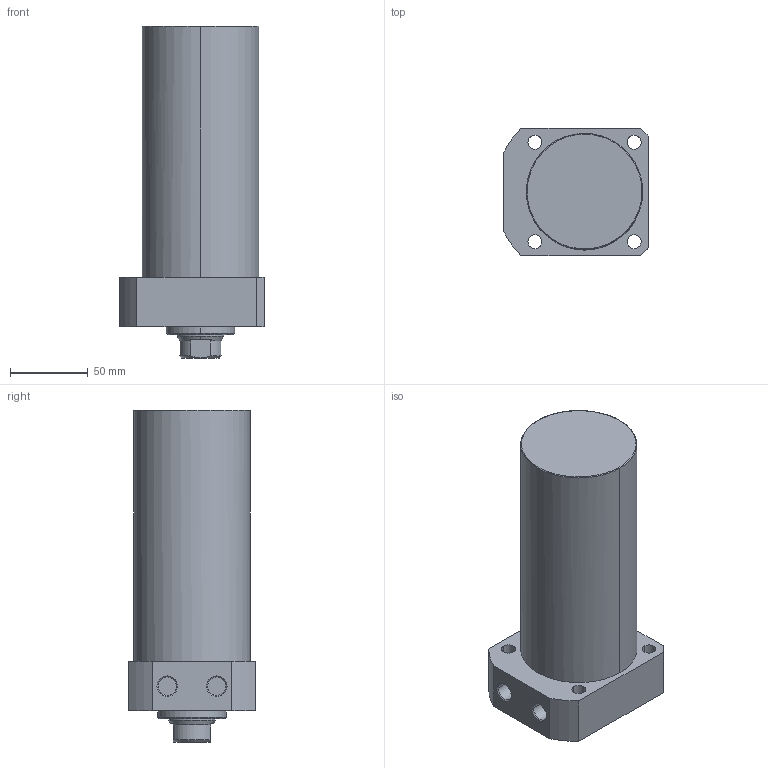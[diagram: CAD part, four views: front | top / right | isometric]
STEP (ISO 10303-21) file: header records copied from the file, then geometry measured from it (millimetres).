
FILE_DESCRIPTION((' '),'2;1');
FILE_NAME( 'TLLR-075CA-125.STEP.stp', '2025-10-24T16:35:06', (' '), ('--- Datakit www.datakit.com---'), ' Datakit CrossCadWare V2024.1 Dec 21 2023', 'Mastercam 2025', ' ');
FILE_SCHEMA(('AUTOMOTIVE_DESIGN { 1 0 10303 214 1 1 1 1 }'));
Length unit declared in the file: millimetre
Products named in the file (1): TLLR-075CA-125
Bounding box: 93 x 82 x 214 mm (x, y, z)
Volume: 950794.3 mm3; surface area: 71831.6 mm2
Topology: 1 solids, 1 shells, 63 faces, 177 edges, 122 vertices
Faces by surface type: cylinder 28, plane 19, cone 14, torus 2
Entity records: 2168 total; most frequent: CARTESIAN_POINT 405, DIRECTION 400, ORIENTED_EDGE 350, EDGE_CURVE 175, AXIS2_PLACEMENT_3D 169, VERTEX_POINT 122, CIRCLE 105, EDGE_LOOP 79
